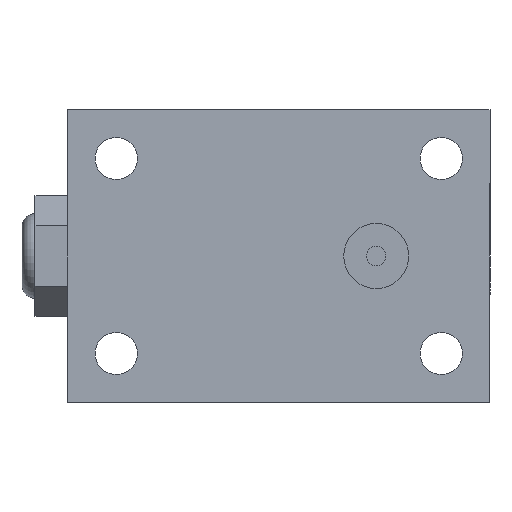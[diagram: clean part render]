
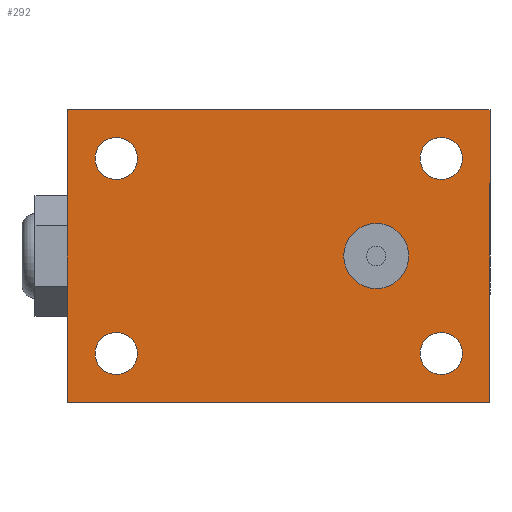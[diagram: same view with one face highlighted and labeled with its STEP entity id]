
A CAD part, front view. The second image highlights one B-rep face of the part: STEP entity #292.
In plain terms, the highlighted planar face has unit normal (0, -1, 0).
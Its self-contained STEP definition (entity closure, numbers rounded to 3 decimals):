
#4 = CARTESIAN_POINT ( 'NONE',  ( 25., 0., -18.25 ) ) ;
#9 = CARTESIAN_POINT ( 'NONE',  ( 15., 0., -5. ) ) ;
#25 = FACE_BOUND ( 'NONE', #1127, .T. ) ;
#72 = ORIENTED_EDGE ( 'NONE', *, *, #763, .F. ) ;
#103 = CARTESIAN_POINT ( 'NONE',  ( 15., 0., 0. ) ) ;
#105 = CIRCLE ( 'NONE', #543, 3.25 ) ;
#115 = EDGE_CURVE ( 'NONE', #1112, #1373, #973, .T. ) ;
#123 = CARTESIAN_POINT ( 'NONE',  ( 25., 0., -15. ) ) ;
#125 = EDGE_CURVE ( 'NONE', #553, #818, #1420, .T. ) ;
#135 = AXIS2_PLACEMENT_3D ( 'NONE', #268, #246, #373 ) ;
#142 = DIRECTION ( 'NONE',  ( 0., 0., -1. ) ) ;
#156 = VERTEX_POINT ( 'NONE', #926 ) ;
#162 = EDGE_CURVE ( 'NONE', #1245, #512, #617, .T. ) ;
#180 = EDGE_LOOP ( 'NONE', ( #1323, #1481 ) ) ;
#222 = CARTESIAN_POINT ( 'NONE',  ( -25., 0., -15. ) ) ;
#246 = DIRECTION ( 'NONE',  ( 0., -1., 0. ) ) ;
#258 = ORIENTED_EDGE ( 'NONE', *, *, #162, .F. ) ;
#268 = CARTESIAN_POINT ( 'NONE',  ( 25., 0., -15. ) ) ;
#292 = ADVANCED_FACE ( 'NONE', ( #769, #25, #547, #1568, #1526, #499 ), #1465, .F. ) ;
#308 = VERTEX_POINT ( 'NONE', #1099 ) ;
#315 = DIRECTION ( 'NONE',  ( 0., -1., 0. ) ) ;
#344 = CARTESIAN_POINT ( 'NONE',  ( -32.5, 0., -22.5 ) ) ;
#358 = EDGE_LOOP ( 'NONE', ( #258, #1457, #1009, #1438 ) ) ;
#367 = AXIS2_PLACEMENT_3D ( 'NONE', #1598, #1223, #700 ) ;
#373 = DIRECTION ( 'NONE',  ( 0., 0., -1. ) ) ;
#377 = AXIS2_PLACEMENT_3D ( 'NONE', #918, #513, #783 ) ;
#386 = CARTESIAN_POINT ( 'NONE',  ( 25., 0., 11.75 ) ) ;
#387 = CARTESIAN_POINT ( 'NONE',  ( 32.5, 0., -22.5 ) ) ;
#392 = CARTESIAN_POINT ( 'NONE',  ( 32.5, 0., 22.5 ) ) ;
#434 = DIRECTION ( 'NONE',  ( 0., 0., -1. ) ) ;
#458 = VECTOR ( 'NONE', #827, 1000. ) ;
#473 = EDGE_CURVE ( 'NONE', #308, #591, #604, .T. ) ;
#481 = AXIS2_PLACEMENT_3D ( 'NONE', #123, #632, #142 ) ;
#492 = CARTESIAN_POINT ( 'NONE',  ( -25., 0., -18.25 ) ) ;
#499 = FACE_OUTER_BOUND ( 'NONE', #358, .T. ) ;
#502 = EDGE_CURVE ( 'NONE', #818, #553, #1161, .T. ) ;
#504 = AXIS2_PLACEMENT_3D ( 'NONE', #906, #1029, #921 ) ;
#512 = VERTEX_POINT ( 'NONE', #1605 ) ;
#513 = DIRECTION ( 'NONE',  ( 0., -1., 0. ) ) ;
#541 = CARTESIAN_POINT ( 'NONE',  ( -25., 0., -11.75 ) ) ;
#543 = AXIS2_PLACEMENT_3D ( 'NONE', #867, #315, #564 ) ;
#547 = FACE_BOUND ( 'NONE', #1125, .T. ) ;
#553 = VERTEX_POINT ( 'NONE', #492 ) ;
#564 = DIRECTION ( 'NONE',  ( 0., 0., -1. ) ) ;
#576 = ORIENTED_EDGE ( 'NONE', *, *, #972, .F. ) ;
#585 = AXIS2_PLACEMENT_3D ( 'NONE', #1335, #1222, #434 ) ;
#588 = EDGE_CURVE ( 'NONE', #714, #1458, #1451, .T. ) ;
#591 = VERTEX_POINT ( 'NONE', #1253 ) ;
#604 = LINE ( 'NONE', #344, #816 ) ;
#617 = LINE ( 'NONE', #387, #1022 ) ;
#632 = DIRECTION ( 'NONE',  ( 0., -1., 0. ) ) ;
#634 = CARTESIAN_POINT ( 'NONE',  ( -32.5, 0., 22.5 ) ) ;
#649 = ORIENTED_EDGE ( 'NONE', *, *, #1066, .F. ) ;
#655 = DIRECTION ( 'NONE',  ( 0., -1., 0. ) ) ;
#682 = EDGE_CURVE ( 'NONE', #591, #1245, #887, .T. ) ;
#700 = DIRECTION ( 'NONE',  ( 0., 0., 1. ) ) ;
#714 = VERTEX_POINT ( 'NONE', #1414 ) ;
#728 = CIRCLE ( 'NONE', #869, 3.25 ) ;
#745 = DIRECTION ( 'NONE',  ( 0., 0., -1. ) ) ;
#748 = CIRCLE ( 'NONE', #504, 3.25 ) ;
#763 = EDGE_CURVE ( 'NONE', #1458, #714, #794, .T. ) ;
#766 = VECTOR ( 'NONE', #1537, 1000. ) ;
#769 = FACE_BOUND ( 'NONE', #180, .T. ) ;
#777 = ORIENTED_EDGE ( 'NONE', *, *, #502, .F. ) ;
#783 = DIRECTION ( 'NONE',  ( 0., 0., -1. ) ) ;
#794 = CIRCLE ( 'NONE', #1527, 5. ) ;
#803 = ORIENTED_EDGE ( 'NONE', *, *, #125, .F. ) ;
#816 = VECTOR ( 'NONE', #993, 1000. ) ;
#818 = VERTEX_POINT ( 'NONE', #541 ) ;
#823 = EDGE_CURVE ( 'NONE', #1613, #996, #105, .T. ) ;
#827 = DIRECTION ( 'NONE',  ( -1., 0., 0. ) ) ;
#866 = EDGE_CURVE ( 'NONE', #512, #308, #1607, .T. ) ;
#867 = CARTESIAN_POINT ( 'NONE',  ( -25., 0., 15. ) ) ;
#869 = AXIS2_PLACEMENT_3D ( 'NONE', #1394, #1372, #1000 ) ;
#872 = DIRECTION ( 'NONE',  ( 0., -1., 0. ) ) ;
#887 = LINE ( 'NONE', #634, #766 ) ;
#888 = DIRECTION ( 'NONE',  ( 0., 0., -1. ) ) ;
#906 = CARTESIAN_POINT ( 'NONE',  ( 25., 0., 15. ) ) ;
#918 = CARTESIAN_POINT ( 'NONE',  ( -25., 0., -15. ) ) ;
#921 = DIRECTION ( 'NONE',  ( 0., 0., -1. ) ) ;
#926 = CARTESIAN_POINT ( 'NONE',  ( 25., 0., 18.25 ) ) ;
#947 = CARTESIAN_POINT ( 'NONE',  ( 15., 0., 0. ) ) ;
#972 = EDGE_CURVE ( 'NONE', #996, #1613, #728, .T. ) ;
#973 = CIRCLE ( 'NONE', #135, 3.25 ) ;
#993 = DIRECTION ( 'NONE',  ( 0., 0., 1. ) ) ;
#996 = VERTEX_POINT ( 'NONE', #1008 ) ;
#1000 = DIRECTION ( 'NONE',  ( 0., 0., -1. ) ) ;
#1008 = CARTESIAN_POINT ( 'NONE',  ( -25., 0., 11.75 ) ) ;
#1009 = ORIENTED_EDGE ( 'NONE', *, *, #473, .F. ) ;
#1013 = AXIS2_PLACEMENT_3D ( 'NONE', #103, #1503, #888 ) ;
#1022 = VECTOR ( 'NONE', #1174, 1000. ) ;
#1029 = DIRECTION ( 'NONE',  ( 0., -1., 0. ) ) ;
#1064 = EDGE_LOOP ( 'NONE', ( #576, #1088 ) ) ;
#1066 = EDGE_CURVE ( 'NONE', #1373, #1112, #1291, .T. ) ;
#1088 = ORIENTED_EDGE ( 'NONE', *, *, #823, .F. ) ;
#1090 = EDGE_LOOP ( 'NONE', ( #72, #1492 ) ) ;
#1099 = CARTESIAN_POINT ( 'NONE',  ( -32.5, 0., -22.5 ) ) ;
#1112 = VERTEX_POINT ( 'NONE', #4 ) ;
#1118 = EDGE_CURVE ( 'NONE', #1509, #156, #748, .T. ) ;
#1125 = EDGE_LOOP ( 'NONE', ( #803, #777 ) ) ;
#1127 = EDGE_LOOP ( 'NONE', ( #1430, #649 ) ) ;
#1161 = CIRCLE ( 'NONE', #1167, 3.25 ) ;
#1167 = AXIS2_PLACEMENT_3D ( 'NONE', #222, #872, #745 ) ;
#1174 = DIRECTION ( 'NONE',  ( 0., 0., -1. ) ) ;
#1222 = DIRECTION ( 'NONE',  ( 0., -1., 0. ) ) ;
#1223 = DIRECTION ( 'NONE',  ( 0., 1., 0. ) ) ;
#1245 = VERTEX_POINT ( 'NONE', #392 ) ;
#1253 = CARTESIAN_POINT ( 'NONE',  ( -32.5, 0., 22.5 ) ) ;
#1291 = CIRCLE ( 'NONE', #481, 3.25 ) ;
#1311 = CIRCLE ( 'NONE', #585, 3.25 ) ;
#1323 = ORIENTED_EDGE ( 'NONE', *, *, #1118, .F. ) ;
#1330 = CARTESIAN_POINT ( 'NONE',  ( -25., 0., 18.25 ) ) ;
#1335 = CARTESIAN_POINT ( 'NONE',  ( 25., 0., 15. ) ) ;
#1372 = DIRECTION ( 'NONE',  ( 0., -1., 0. ) ) ;
#1373 = VERTEX_POINT ( 'NONE', #1466 ) ;
#1394 = CARTESIAN_POINT ( 'NONE',  ( -25., 0., 15. ) ) ;
#1414 = CARTESIAN_POINT ( 'NONE',  ( 15., 0., 5. ) ) ;
#1420 = CIRCLE ( 'NONE', #377, 3.25 ) ;
#1430 = ORIENTED_EDGE ( 'NONE', *, *, #115, .F. ) ;
#1438 = ORIENTED_EDGE ( 'NONE', *, *, #866, .F. ) ;
#1451 = CIRCLE ( 'NONE', #1013, 5. ) ;
#1457 = ORIENTED_EDGE ( 'NONE', *, *, #682, .F. ) ;
#1458 = VERTEX_POINT ( 'NONE', #9 ) ;
#1465 = PLANE ( 'NONE',  #367 ) ;
#1466 = CARTESIAN_POINT ( 'NONE',  ( 25., 0., -11.75 ) ) ;
#1474 = CARTESIAN_POINT ( 'NONE',  ( -32.5, 0., -22.5 ) ) ;
#1481 = ORIENTED_EDGE ( 'NONE', *, *, #1570, .F. ) ;
#1492 = ORIENTED_EDGE ( 'NONE', *, *, #588, .F. ) ;
#1503 = DIRECTION ( 'NONE',  ( 0., -1., 0. ) ) ;
#1509 = VERTEX_POINT ( 'NONE', #386 ) ;
#1526 = FACE_BOUND ( 'NONE', #1090, .T. ) ;
#1527 = AXIS2_PLACEMENT_3D ( 'NONE', #947, #655, #1571 ) ;
#1537 = DIRECTION ( 'NONE',  ( 1., 0., 0. ) ) ;
#1568 = FACE_BOUND ( 'NONE', #1064, .T. ) ;
#1570 = EDGE_CURVE ( 'NONE', #156, #1509, #1311, .T. ) ;
#1571 = DIRECTION ( 'NONE',  ( 0., 0., -1. ) ) ;
#1598 = CARTESIAN_POINT ( 'NONE',  ( 0., 0., 0. ) ) ;
#1605 = CARTESIAN_POINT ( 'NONE',  ( 32.5, 0., -22.5 ) ) ;
#1607 = LINE ( 'NONE', #1474, #458 ) ;
#1613 = VERTEX_POINT ( 'NONE', #1330 ) ;
